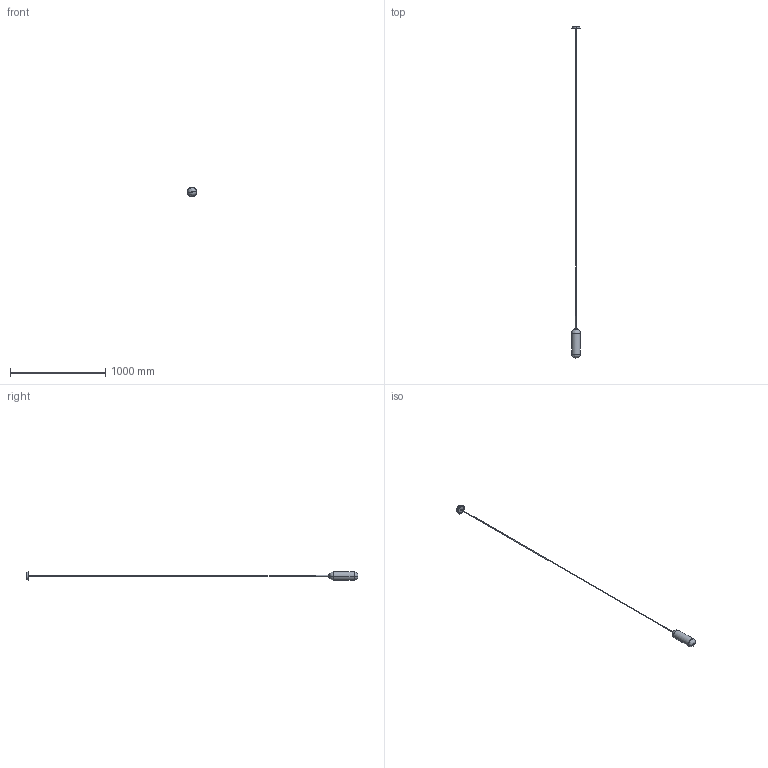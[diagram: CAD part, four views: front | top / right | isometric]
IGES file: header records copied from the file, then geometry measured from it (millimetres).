
Start section: SolidWorks IGES file using analytic representation for surfaces
Global section: file name: C:\Users\Agus\Desktop\AROMAS\PROPUESTAS SEPT.2019\UNCO\COLGANTE 1 LUZ\C1281.IGS; native system: SolidWorks 2018; preprocessor: SolidWorks 2018; author: Agus; date: 200406.105700; units: millimetre
Bounding box: 100 x 3488.41 x 100 mm (x, y, z)
Surface area: 280419.7 mm2 (no closed solid volume)
Topology: 0 solids, 0 shells, 75 faces, 1288 edges, 1288 vertices
Faces by surface type: bspline 45, revolution 30
